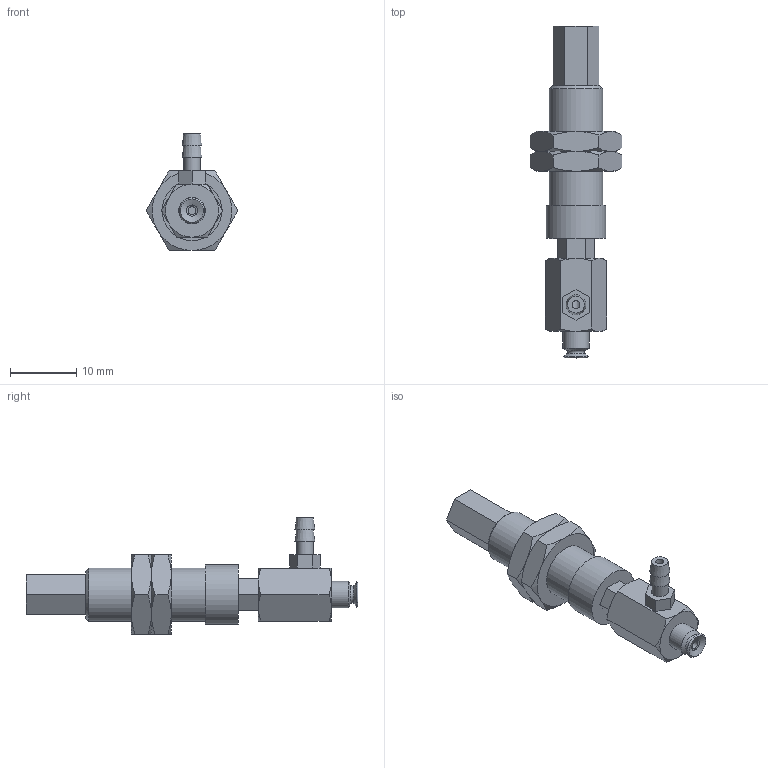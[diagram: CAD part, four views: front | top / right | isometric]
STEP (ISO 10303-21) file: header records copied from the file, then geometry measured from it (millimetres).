
FILE_DESCRIPTION(('STEP AP203'),'1');
FILE_NAME('-T.stp','2025-04-10T02:13:31',(' '),(' '),'Spatial InterOp 3D',' ',' ');
FILE_SCHEMA(('CONFIG_CONTROL_DESIGN'));
Length unit declared in the file: millimetre
Products named in the file (7): BNABPFYH-3.5A-3-※-T; CONNECTOR-H-3.5A-3; Nut-3.5A-3-h; NAPFTH-3.5A-3-FBODY; NAPFTH-3.5A-3-MBODY; BPFG-3.5A-※; T (2)
Assembly tree (7 placements, depth 2):
  BNABPFYH-3.5A-3-※-T
    CONNECTOR-H-3.5A-3
    Nut-3.5A-3-h  x2
    NAPFTH-3.5A-3-FBODY
    NAPFTH-3.5A-3-MBODY
    BPFG-3.5A-※
    T (2)
Bounding box: 13.86 x 50 x 17.6 mm (x, y, z)
Volume: 2696.3 mm3; surface area: 3334 mm2
Topology: 7 solids, 7 shells, 155 faces, 333 edges, 204 vertices
Faces by surface type: plane 76, cone 54, cylinder 17, torus 7, bspline 1
Full cylindrical faces by diameter (mm): 1.2 x3, 2 x2, 2.459 x2, 2.5 x1, 3 x4, 4 x1, 7.188 x2, 8 x1, 9 x1
Entity records: 3925 total; most frequent: CARTESIAN_POINT 919, DIRECTION 546, ORIENTED_EDGE 480, EDGE_CURVE 240, AXIS2_PLACEMENT_3D 221, EDGE_LOOP 194, VERTEX_POINT 170, FACE_OUTER_BOUND 156
